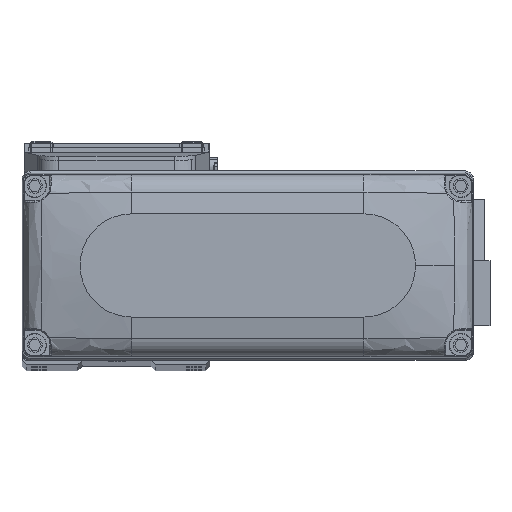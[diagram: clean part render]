
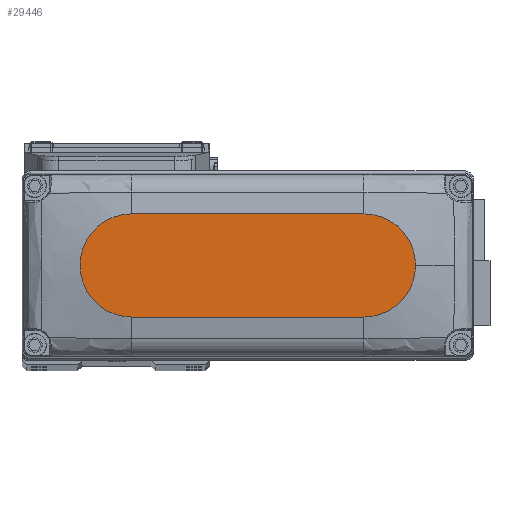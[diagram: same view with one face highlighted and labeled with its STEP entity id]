
A CAD part, top view. The second image highlights one B-rep face of the part: STEP entity #29446.
In plain terms, the highlighted planar face has unit normal (0, 0, 1).
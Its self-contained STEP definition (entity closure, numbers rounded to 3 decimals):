
#352 = VECTOR ( 'NONE', #21916, 1000. ) ;
#3691 = VERTEX_POINT ( 'NONE', #6916 ) ;
#4164 = VERTEX_POINT ( 'NONE', #26007 ) ;
#4215 = LINE ( 'NONE', #16457, #10877 ) ;
#5799 = CARTESIAN_POINT ( 'NONE',  ( -27., 0., 25. ) ) ;
#6651 = DIRECTION ( 'NONE',  ( 1., 0., 0. ) ) ;
#6916 = CARTESIAN_POINT ( 'NONE',  ( -27., -12., 25. ) ) ;
#7707 = CARTESIAN_POINT ( 'NONE',  ( 27., 0., 25. ) ) ;
#9460 = AXIS2_PLACEMENT_3D ( 'NONE', #7707, #19940, #32166 ) ;
#9678 = PLANE ( 'NONE',  #30838 ) ;
#9689 = CARTESIAN_POINT ( 'NONE',  ( -27., -12., 25. ) ) ;
#9873 = DIRECTION ( 'NONE',  ( 1., 0., 0. ) ) ;
#10291 = CIRCLE ( 'NONE', #32674, 12. ) ;
#10706 = AXIS2_PLACEMENT_3D ( 'NONE', #25115, #37321, #9873 ) ;
#10877 = VECTOR ( 'NONE', #28690, 1000. ) ;
#11605 = EDGE_CURVE ( 'NONE', #17340, #3691, #10291, .T. ) ;
#16043 = CARTESIAN_POINT ( 'NONE',  ( -27., 12., 25. ) ) ;
#16068 = VERTEX_POINT ( 'NONE', #33670 ) ;
#16457 = CARTESIAN_POINT ( 'NONE',  ( -27., 12., 25. ) ) ;
#17340 = VERTEX_POINT ( 'NONE', #16043 ) ;
#18043 = DIRECTION ( 'NONE',  ( 0., 0., 1. ) ) ;
#19940 = DIRECTION ( 'NONE',  ( 0., 0., 1. ) ) ;
#21909 = CARTESIAN_POINT ( 'NONE',  ( 0., 0., 25. ) ) ;
#21916 = DIRECTION ( 'NONE',  ( 1., 0., 0. ) ) ;
#23421 = VERTEX_POINT ( 'NONE', #24801 ) ;
#24090 = EDGE_CURVE ( 'NONE', #23421, #17340, #4215, .T. ) ;
#24801 = CARTESIAN_POINT ( 'NONE',  ( 27., 12., 25. ) ) ;
#25115 = CARTESIAN_POINT ( 'NONE',  ( 27., 0., 25. ) ) ;
#25998 = EDGE_LOOP ( 'NONE', ( #36834, #39268, #29468, #29272, #37895 ) ) ;
#26007 = CARTESIAN_POINT ( 'NONE',  ( 39., 0., 25. ) ) ;
#26748 = CIRCLE ( 'NONE', #9460, 12. ) ;
#27999 = CIRCLE ( 'NONE', #10706, 12. ) ;
#28690 = DIRECTION ( 'NONE',  ( -1., 0., 0. ) ) ;
#29272 = ORIENTED_EDGE ( 'NONE', *, *, #34149, .T. ) ;
#29446 = ADVANCED_FACE ( 'NONE', ( #37122 ), #9678, .T. ) ;
#29468 = ORIENTED_EDGE ( 'NONE', *, *, #30692, .T. ) ;
#30258 = DIRECTION ( 'NONE',  ( 1., 0., 0. ) ) ;
#30692 = EDGE_CURVE ( 'NONE', #3691, #16068, #37131, .T. ) ;
#30838 = AXIS2_PLACEMENT_3D ( 'NONE', #21909, #34129, #6651 ) ;
#31946 = EDGE_CURVE ( 'NONE', #4164, #23421, #27999, .T. ) ;
#32166 = DIRECTION ( 'NONE',  ( 1., 0., 0. ) ) ;
#32674 = AXIS2_PLACEMENT_3D ( 'NONE', #5799, #18043, #30258 ) ;
#33670 = CARTESIAN_POINT ( 'NONE',  ( 27., -12., 25. ) ) ;
#34129 = DIRECTION ( 'NONE',  ( 0., 0., 1. ) ) ;
#34149 = EDGE_CURVE ( 'NONE', #16068, #4164, #26748, .T. ) ;
#36834 = ORIENTED_EDGE ( 'NONE', *, *, #24090, .T. ) ;
#37122 = FACE_OUTER_BOUND ( 'NONE', #25998, .T. ) ;
#37131 = LINE ( 'NONE', #9689, #352 ) ;
#37321 = DIRECTION ( 'NONE',  ( 0., 0., 1. ) ) ;
#37895 = ORIENTED_EDGE ( 'NONE', *, *, #31946, .T. ) ;
#39268 = ORIENTED_EDGE ( 'NONE', *, *, #11605, .T. ) ;
